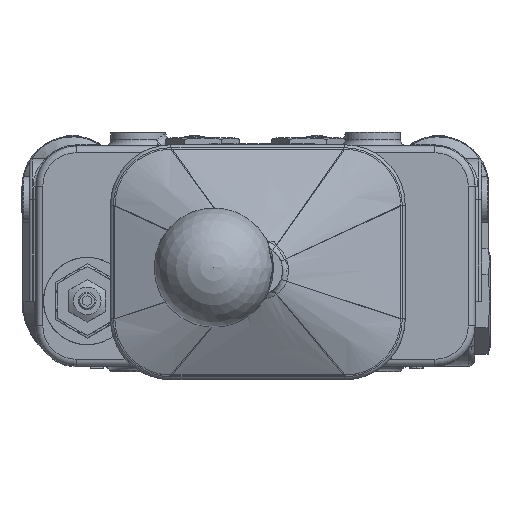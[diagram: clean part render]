
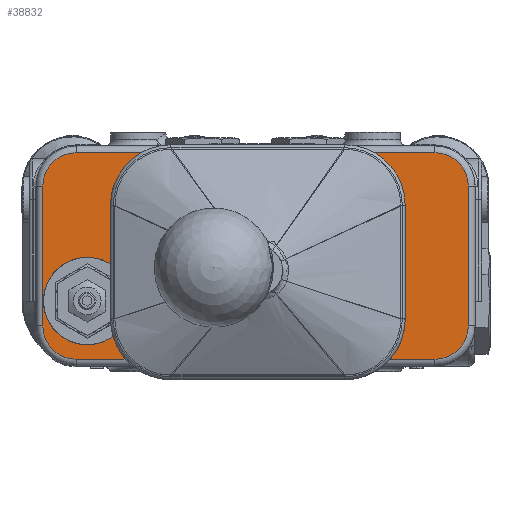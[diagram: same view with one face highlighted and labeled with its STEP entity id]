
A CAD part, top view. The second image highlights one B-rep face of the part: STEP entity #38832.
In plain terms, the highlighted planar face has unit normal (0, 0, 1).
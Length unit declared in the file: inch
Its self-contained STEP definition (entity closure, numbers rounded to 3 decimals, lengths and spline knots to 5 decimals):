
#15396=CARTESIAN_POINT('',(-0.999,0.17051,-0.53));
#15397=VERTEX_POINT('',#15396);
#15398=CARTESIAN_POINT('',(-0.999,-0.17051,-0.53));
#15399=VERTEX_POINT('',#15398);
#15413=CARTESIAN_POINT('',(-0.999,-0.791,-0.53));
#15414=VERTEX_POINT('',#15413);
#15415=CARTESIAN_POINT('',(-0.999,-0.17051,-0.53));
#15416=DIRECTION('',(0.0,-1.0,0.0));
#15417=VECTOR('',#15416,0.62049);
#15418=LINE('',#15415,#15417);
#15419=EDGE_CURVE('',#15399,#15414,#15418,.T.);
#15447=CARTESIAN_POINT('',(-0.999,0.791,-0.53));
#15448=VERTEX_POINT('',#15447);
#15456=CARTESIAN_POINT('',(-0.999,0.791,-0.53));
#15457=DIRECTION('',(0.0,-1.0,0.0));
#15458=VECTOR('',#15457,0.62049);
#15459=LINE('',#15456,#15458);
#15460=EDGE_CURVE('',#15448,#15397,#15459,.T.);
#15470=CARTESIAN_POINT('',(-1.568,0.,-0.53));
#15471=DIRECTION('',(0.0,0.0,-1.0));
#15472=DIRECTION('',(1.0,0.0,0.0));
#15473=AXIS2_PLACEMENT_3D('',#15470,#15471,#15472);
#15474=CIRCLE('',#15473,0.594);
#15475=EDGE_CURVE('',#15399,#15397,#15474,.T.);
#38714=CARTESIAN_POINT('',(0.719,0.612,-0.53));
#38715=DIRECTION('',(0.0,0.0,1.0));
#38716=DIRECTION('',(1.0,0.0,0.0));
#38717=AXIS2_PLACEMENT_3D('',#38714,#38715,#38716);
#38718=PLANE('',#38717);
#38719=ORIENTED_EDGE('',*,*,#15475,.T.);
#38720=ORIENTED_EDGE('',*,*,#15460,.F.);
#38721=CARTESIAN_POINT('',(-0.813,0.977,-0.53));
#38722=VERTEX_POINT('',#38721);
#38723=CARTESIAN_POINT('',(-0.813,0.791,-0.53));
#38724=DIRECTION('',(0.,0.,1.0));
#38725=DIRECTION('',(-0.707,0.707,0.));
#38726=AXIS2_PLACEMENT_3D('',#38723,#38724,#38725);
#38727=CIRCLE('',#38726,0.186);
#38728=EDGE_CURVE('',#38722,#15448,#38727,.T.);
#38729=ORIENTED_EDGE('',*,*,#38728,.F.);
#38730=CARTESIAN_POINT('',(2.251,0.977,-0.53));
#38731=VERTEX_POINT('',#38730);
#38732=CARTESIAN_POINT('',(2.251,0.977,-0.53));
#38733=DIRECTION('',(-1.0,0.0,0.0));
#38734=VECTOR('',#38733,3.064);
#38735=LINE('',#38732,#38734);
#38736=EDGE_CURVE('',#38731,#38722,#38735,.T.);
#38737=ORIENTED_EDGE('',*,*,#38736,.F.);
#38738=CARTESIAN_POINT('',(2.437,0.791,-0.53));
#38739=VERTEX_POINT('',#38738);
#38740=CARTESIAN_POINT('',(2.251,0.791,-0.53));
#38741=DIRECTION('',(0.,0.,1.0));
#38742=DIRECTION('',(0.707,0.707,0.));
#38743=AXIS2_PLACEMENT_3D('',#38740,#38741,#38742);
#38744=CIRCLE('',#38743,0.186);
#38745=EDGE_CURVE('',#38739,#38731,#38744,.T.);
#38746=ORIENTED_EDGE('',*,*,#38745,.F.);
#38747=CARTESIAN_POINT('',(2.437,-0.791,-0.53));
#38748=VERTEX_POINT('',#38747);
#38749=CARTESIAN_POINT('',(2.437,-0.791,-0.53));
#38750=DIRECTION('',(0.0,1.0,0.0));
#38751=VECTOR('',#38750,1.582);
#38752=LINE('',#38749,#38751);
#38753=EDGE_CURVE('',#38748,#38739,#38752,.T.);
#38754=ORIENTED_EDGE('',*,*,#38753,.F.);
#38755=CARTESIAN_POINT('',(3.156,-0.791,-0.53));
#38756=VERTEX_POINT('',#38755);
#38757=CARTESIAN_POINT('',(3.156,-0.791,-0.53));
#38758=DIRECTION('',(-1.0,0.0,0.0));
#38759=VECTOR('',#38758,0.719);
#38760=LINE('',#38757,#38759);
#38761=EDGE_CURVE('',#38756,#38748,#38760,.T.);
#38762=ORIENTED_EDGE('',*,*,#38761,.F.);
#38763=CARTESIAN_POINT('',(3.609,-0.338,-0.53));
#38764=VERTEX_POINT('',#38763);
#38765=CARTESIAN_POINT('',(3.156,-0.338,-0.53));
#38766=DIRECTION('',(0.,0.,-1.0));
#38767=DIRECTION('',(0.707,-0.707,0.));
#38768=AXIS2_PLACEMENT_3D('',#38765,#38766,#38767);
#38769=CIRCLE('',#38768,0.453);
#38770=EDGE_CURVE('',#38764,#38756,#38769,.T.);
#38771=ORIENTED_EDGE('',*,*,#38770,.F.);
#38772=CARTESIAN_POINT('',(3.609,1.562,-0.53));
#38773=VERTEX_POINT('',#38772);
#38774=CARTESIAN_POINT('',(3.609,1.562,-0.53));
#38775=DIRECTION('',(0.0,-1.0,0.0));
#38776=VECTOR('',#38775,1.9);
#38777=LINE('',#38774,#38776);
#38778=EDGE_CURVE('',#38773,#38764,#38777,.T.);
#38779=ORIENTED_EDGE('',*,*,#38778,.F.);
#38780=CARTESIAN_POINT('',(3.156,2.015,-0.53));
#38781=VERTEX_POINT('',#38780);
#38782=CARTESIAN_POINT('',(3.156,1.562,-0.53));
#38783=DIRECTION('',(0.,0.,-1.0));
#38784=DIRECTION('',(0.707,0.707,0.));
#38785=AXIS2_PLACEMENT_3D('',#38782,#38783,#38784);
#38786=CIRCLE('',#38785,0.453);
#38787=EDGE_CURVE('',#38781,#38773,#38786,.T.);
#38788=ORIENTED_EDGE('',*,*,#38787,.F.);
#38789=CARTESIAN_POINT('',(-1.718,2.015,-0.53));
#38790=VERTEX_POINT('',#38789);
#38791=CARTESIAN_POINT('',(-1.718,2.015,-0.53));
#38792=DIRECTION('',(1.0,0.0,0.0));
#38793=VECTOR('',#38792,4.874);
#38794=LINE('',#38791,#38793);
#38795=EDGE_CURVE('',#38790,#38781,#38794,.T.);
#38796=ORIENTED_EDGE('',*,*,#38795,.F.);
#38797=CARTESIAN_POINT('',(-2.171,1.562,-0.53));
#38798=VERTEX_POINT('',#38797);
#38799=CARTESIAN_POINT('',(-1.718,1.562,-0.53));
#38800=DIRECTION('',(0.,0.,-1.0));
#38801=DIRECTION('',(-0.707,0.707,0.));
#38802=AXIS2_PLACEMENT_3D('',#38799,#38800,#38801);
#38803=CIRCLE('',#38802,0.453);
#38804=EDGE_CURVE('',#38798,#38790,#38803,.T.);
#38805=ORIENTED_EDGE('',*,*,#38804,.F.);
#38806=CARTESIAN_POINT('',(-2.171,-0.338,-0.53));
#38807=VERTEX_POINT('',#38806);
#38808=CARTESIAN_POINT('',(-2.171,-0.338,-0.53));
#38809=DIRECTION('',(0.0,1.0,0.0));
#38810=VECTOR('',#38809,1.9);
#38811=LINE('',#38808,#38810);
#38812=EDGE_CURVE('',#38807,#38798,#38811,.T.);
#38813=ORIENTED_EDGE('',*,*,#38812,.F.);
#38814=CARTESIAN_POINT('',(-1.718,-0.791,-0.53));
#38815=VERTEX_POINT('',#38814);
#38816=CARTESIAN_POINT('',(-1.718,-0.338,-0.53));
#38817=DIRECTION('',(0.,0.,-1.0));
#38818=DIRECTION('',(-0.707,-0.707,0.));
#38819=AXIS2_PLACEMENT_3D('',#38816,#38817,#38818);
#38820=CIRCLE('',#38819,0.453);
#38821=EDGE_CURVE('',#38815,#38807,#38820,.T.);
#38822=ORIENTED_EDGE('',*,*,#38821,.F.);
#38823=CARTESIAN_POINT('',(-0.999,-0.791,-0.53));
#38824=DIRECTION('',(-1.0,0.0,0.0));
#38825=VECTOR('',#38824,0.719);
#38826=LINE('',#38823,#38825);
#38827=EDGE_CURVE('',#15414,#38815,#38826,.T.);
#38828=ORIENTED_EDGE('',*,*,#38827,.F.);
#38829=ORIENTED_EDGE('',*,*,#15419,.F.);
#38830=EDGE_LOOP('',(#38719,#38720,#38729,#38737,#38746,#38754,#38762,#38771,#38779,#38788,#38796,#38805,#38813,#38822,#38828,#38829));
#38831=FACE_OUTER_BOUND('',#38830,.T.);
#38832=ADVANCED_FACE('',(#38831),#38718,.T.);
